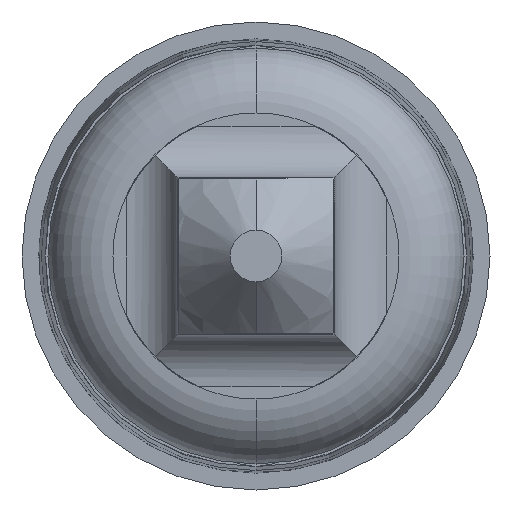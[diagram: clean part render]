
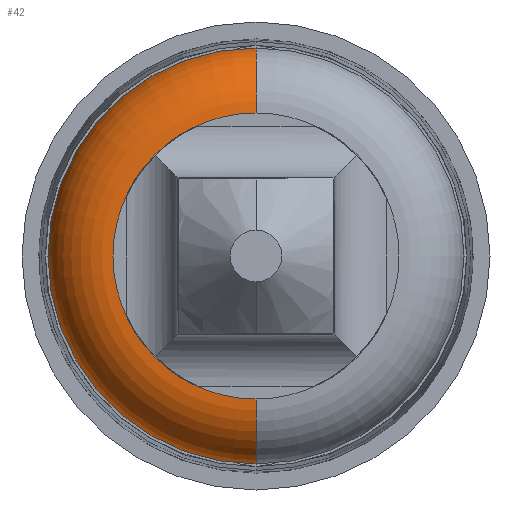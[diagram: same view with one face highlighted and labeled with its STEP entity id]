
A CAD part, front view. The second image highlights one B-rep face of the part: STEP entity #42.
In plain terms, the highlighted toroidal (fillet/blend) face has major radius 0.55 mm and minor radius 0.25 mm.
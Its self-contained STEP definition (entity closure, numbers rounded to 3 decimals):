
#30 = EDGE_CURVE ( 'NONE', #605, #639, #1020, .T. ) ;
#42 = ADVANCED_FACE ( 'NONE', ( #492 ), #192, .T. ) ;
#65 = CARTESIAN_POINT ( 'NONE',  ( 0., -14.75, 0.55 ) ) ;
#72 = DIRECTION ( 'NONE',  ( 0., 0., 1. ) ) ;
#157 = DIRECTION ( 'NONE',  ( 0., 0., 1. ) ) ;
#165 = DIRECTION ( 'NONE',  ( 0., -1., 0. ) ) ;
#186 = ORIENTED_EDGE ( 'NONE', *, *, #779, .F. ) ;
#190 = DIRECTION ( 'NONE',  ( 0., 0., 1. ) ) ;
#192 = TOROIDAL_SURFACE ( 'NONE', #837, 0.55, 0.25 ) ;
#221 = CIRCLE ( 'NONE', #456, 0.25 ) ;
#236 = VERTEX_POINT ( 'NONE', #1074 ) ;
#269 = DIRECTION ( 'NONE',  ( 0., 0., 1. ) ) ;
#272 = CIRCLE ( 'NONE', #750, 0.8 ) ;
#302 = DIRECTION ( 'NONE',  ( 0., 1., 0. ) ) ;
#339 = AXIS2_PLACEMENT_3D ( 'NONE', #65, #472, #72 ) ;
#412 = AXIS2_PLACEMENT_3D ( 'NONE', #863, #165, #269 ) ;
#434 = EDGE_CURVE ( 'NONE', #605, #236, #1185, .T. ) ;
#456 = AXIS2_PLACEMENT_3D ( 'NONE', #869, #1264, #1048 ) ;
#472 = DIRECTION ( 'NONE',  ( -1., 0., 0. ) ) ;
#492 = FACE_OUTER_BOUND ( 'NONE', #1038, .T. ) ;
#587 = CARTESIAN_POINT ( 'NONE',  ( 0., -14.75, 0. ) ) ;
#605 = VERTEX_POINT ( 'NONE', #801 ) ;
#639 = VERTEX_POINT ( 'NONE', #916 ) ;
#750 = AXIS2_PLACEMENT_3D ( 'NONE', #784, #302, #157 ) ;
#779 = EDGE_CURVE ( 'NONE', #639, #835, #221, .T. ) ;
#784 = CARTESIAN_POINT ( 'NONE',  ( 0., -14.75, 0. ) ) ;
#801 = CARTESIAN_POINT ( 'NONE',  ( 0., -15., 0.55 ) ) ;
#835 = VERTEX_POINT ( 'NONE', #1179 ) ;
#837 = AXIS2_PLACEMENT_3D ( 'NONE', #587, #1163, #190 ) ;
#863 = CARTESIAN_POINT ( 'NONE',  ( 0., -15., 0. ) ) ;
#869 = CARTESIAN_POINT ( 'NONE',  ( 0., -14.75, -0.55 ) ) ;
#914 = ORIENTED_EDGE ( 'NONE', *, *, #30, .F. ) ;
#916 = CARTESIAN_POINT ( 'NONE',  ( 0., -15., -0.55 ) ) ;
#1020 = CIRCLE ( 'NONE', #412, 0.55 ) ;
#1038 = EDGE_LOOP ( 'NONE', ( #186, #914, #1177, #1128 ) ) ;
#1048 = DIRECTION ( 'NONE',  ( 0., 0., -1. ) ) ;
#1074 = CARTESIAN_POINT ( 'NONE',  ( 0., -14.75, 0.8 ) ) ;
#1128 = ORIENTED_EDGE ( 'NONE', *, *, #1210, .F. ) ;
#1163 = DIRECTION ( 'NONE',  ( 0., 1., 0. ) ) ;
#1177 = ORIENTED_EDGE ( 'NONE', *, *, #434, .T. ) ;
#1179 = CARTESIAN_POINT ( 'NONE',  ( 0., -14.75, -0.8 ) ) ;
#1185 = CIRCLE ( 'NONE', #339, 0.25 ) ;
#1210 = EDGE_CURVE ( 'NONE', #835, #236, #272, .T. ) ;
#1264 = DIRECTION ( 'NONE',  ( 1., 0., 0. ) ) ;
